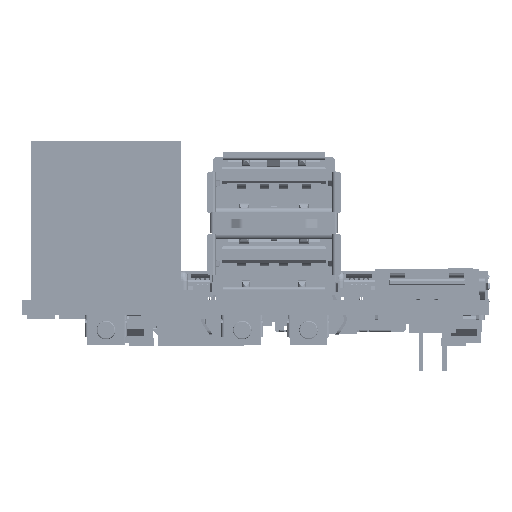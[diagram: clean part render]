
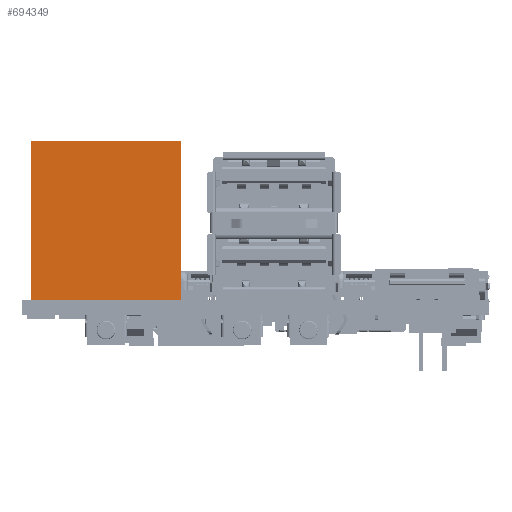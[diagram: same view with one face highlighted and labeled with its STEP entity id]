
A CAD part, front view. The second image highlights one B-rep face of the part: STEP entity #694349.
In plain terms, the highlighted planar face has unit normal (0, -1, 0).
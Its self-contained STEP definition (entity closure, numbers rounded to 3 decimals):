
#694349 = ADVANCED_FACE('',(#694350),#694364,.T.);
#694350 = FACE_BOUND('',#694351,.T.);
#694351 = EDGE_LOOP('',(#694352,#694387,#694415,#694443));
#694352 = ORIENTED_EDGE('',*,*,#694353,.T.);
#694353 = EDGE_CURVE('',#694354,#694356,#694358,.T.);
#694354 = VERTEX_POINT('',#694355);
#694355 = CARTESIAN_POINT('',(8.05,-10.8,0.));
#694356 = VERTEX_POINT('',#694357);
#694357 = CARTESIAN_POINT('',(8.05,-10.8,17.));
#694358 = SURFACE_CURVE('',#694359,(#694363,#694375),.PCURVE_S1.);
#694359 = LINE('',#694360,#694361);
#694360 = CARTESIAN_POINT('',(8.05,-10.8,0.));
#694361 = VECTOR('',#694362,1.);
#694362 = DIRECTION('',(0.,0.,1.));
#694363 = PCURVE('',#694364,#694369);
#694364 = PLANE('',#694365);
#694365 = AXIS2_PLACEMENT_3D('',#694366,#694367,#694368);
#694366 = CARTESIAN_POINT('',(8.05,-10.8,0.));
#694367 = DIRECTION('',(0.,-1.,0.));
#694368 = DIRECTION('',(-1.,0.,0.));
#694369 = DEFINITIONAL_REPRESENTATION('',(#694370),#694374);
#694370 = LINE('',#694371,#694372);
#694371 = CARTESIAN_POINT('',(0.,0.));
#694372 = VECTOR('',#694373,1.);
#694373 = DIRECTION('',(0.,-1.));
#694374 = ( GEOMETRIC_REPRESENTATION_CONTEXT(2) 
PARAMETRIC_REPRESENTATION_CONTEXT() REPRESENTATION_CONTEXT('2D SPACE',''
  ) );
#694375 = PCURVE('',#694376,#694381);
#694376 = PLANE('',#694377);
#694377 = AXIS2_PLACEMENT_3D('',#694378,#694379,#694380);
#694378 = CARTESIAN_POINT('',(8.05,10.8,0.));
#694379 = DIRECTION('',(1.,0.,0.));
#694380 = DIRECTION('',(0.,-1.,0.));
#694381 = DEFINITIONAL_REPRESENTATION('',(#694382),#694386);
#694382 = LINE('',#694383,#694384);
#694383 = CARTESIAN_POINT('',(21.6,0.));
#694384 = VECTOR('',#694385,1.);
#694385 = DIRECTION('',(0.,-1.));
#694386 = ( GEOMETRIC_REPRESENTATION_CONTEXT(2) 
PARAMETRIC_REPRESENTATION_CONTEXT() REPRESENTATION_CONTEXT('2D SPACE',''
  ) );
#694387 = ORIENTED_EDGE('',*,*,#694388,.T.);
#694388 = EDGE_CURVE('',#694356,#694389,#694391,.T.);
#694389 = VERTEX_POINT('',#694390);
#694390 = CARTESIAN_POINT('',(-8.05,-10.8,17.));
#694391 = SURFACE_CURVE('',#694392,(#694396,#694403),.PCURVE_S1.);
#694392 = LINE('',#694393,#694394);
#694393 = CARTESIAN_POINT('',(8.05,-10.8,17.));
#694394 = VECTOR('',#694395,1.);
#694395 = DIRECTION('',(-1.,0.,0.));
#694396 = PCURVE('',#694364,#694397);
#694397 = DEFINITIONAL_REPRESENTATION('',(#694398),#694402);
#694398 = LINE('',#694399,#694400);
#694399 = CARTESIAN_POINT('',(0.,-17.));
#694400 = VECTOR('',#694401,1.);
#694401 = DIRECTION('',(1.,0.));
#694402 = ( GEOMETRIC_REPRESENTATION_CONTEXT(2) 
PARAMETRIC_REPRESENTATION_CONTEXT() REPRESENTATION_CONTEXT('2D SPACE',''
  ) );
#694403 = PCURVE('',#694404,#694409);
#694404 = PLANE('',#694405);
#694405 = AXIS2_PLACEMENT_3D('',#694406,#694407,#694408);
#694406 = CARTESIAN_POINT('',(8.05,-10.8,17.));
#694407 = DIRECTION('',(0.,0.,1.));
#694408 = DIRECTION('',(1.,0.,0.));
#694409 = DEFINITIONAL_REPRESENTATION('',(#694410),#694414);
#694410 = LINE('',#694411,#694412);
#694411 = CARTESIAN_POINT('',(0.,0.));
#694412 = VECTOR('',#694413,1.);
#694413 = DIRECTION('',(-1.,0.));
#694414 = ( GEOMETRIC_REPRESENTATION_CONTEXT(2) 
PARAMETRIC_REPRESENTATION_CONTEXT() REPRESENTATION_CONTEXT('2D SPACE',''
  ) );
#694415 = ORIENTED_EDGE('',*,*,#694416,.F.);
#694416 = EDGE_CURVE('',#694417,#694389,#694419,.T.);
#694417 = VERTEX_POINT('',#694418);
#694418 = CARTESIAN_POINT('',(-8.05,-10.8,0.));
#694419 = SURFACE_CURVE('',#694420,(#694424,#694431),.PCURVE_S1.);
#694420 = LINE('',#694421,#694422);
#694421 = CARTESIAN_POINT('',(-8.05,-10.8,0.));
#694422 = VECTOR('',#694423,1.);
#694423 = DIRECTION('',(0.,0.,1.));
#694424 = PCURVE('',#694364,#694425);
#694425 = DEFINITIONAL_REPRESENTATION('',(#694426),#694430);
#694426 = LINE('',#694427,#694428);
#694427 = CARTESIAN_POINT('',(16.1,0.));
#694428 = VECTOR('',#694429,1.);
#694429 = DIRECTION('',(0.,-1.));
#694430 = ( GEOMETRIC_REPRESENTATION_CONTEXT(2) 
PARAMETRIC_REPRESENTATION_CONTEXT() REPRESENTATION_CONTEXT('2D SPACE',''
  ) );
#694431 = PCURVE('',#694432,#694437);
#694432 = PLANE('',#694433);
#694433 = AXIS2_PLACEMENT_3D('',#694434,#694435,#694436);
#694434 = CARTESIAN_POINT('',(-8.05,-10.8,0.));
#694435 = DIRECTION('',(-1.,0.,0.));
#694436 = DIRECTION('',(0.,1.,0.));
#694437 = DEFINITIONAL_REPRESENTATION('',(#694438),#694442);
#694438 = LINE('',#694439,#694440);
#694439 = CARTESIAN_POINT('',(0.,0.));
#694440 = VECTOR('',#694441,1.);
#694441 = DIRECTION('',(0.,-1.));
#694442 = ( GEOMETRIC_REPRESENTATION_CONTEXT(2) 
PARAMETRIC_REPRESENTATION_CONTEXT() REPRESENTATION_CONTEXT('2D SPACE',''
  ) );
#694443 = ORIENTED_EDGE('',*,*,#694444,.F.);
#694444 = EDGE_CURVE('',#694354,#694417,#694445,.T.);
#694445 = SURFACE_CURVE('',#694446,(#694450,#694457),.PCURVE_S1.);
#694446 = LINE('',#694447,#694448);
#694447 = CARTESIAN_POINT('',(8.05,-10.8,0.));
#694448 = VECTOR('',#694449,1.);
#694449 = DIRECTION('',(-1.,0.,0.));
#694450 = PCURVE('',#694364,#694451);
#694451 = DEFINITIONAL_REPRESENTATION('',(#694452),#694456);
#694452 = LINE('',#694453,#694454);
#694453 = CARTESIAN_POINT('',(0.,0.));
#694454 = VECTOR('',#694455,1.);
#694455 = DIRECTION('',(1.,0.));
#694456 = ( GEOMETRIC_REPRESENTATION_CONTEXT(2) 
PARAMETRIC_REPRESENTATION_CONTEXT() REPRESENTATION_CONTEXT('2D SPACE',''
  ) );
#694457 = PCURVE('',#694458,#694463);
#694458 = PLANE('',#694459);
#694459 = AXIS2_PLACEMENT_3D('',#694460,#694461,#694462);
#694460 = CARTESIAN_POINT('',(8.05,-10.8,0.));
#694461 = DIRECTION('',(0.,0.,1.));
#694462 = DIRECTION('',(1.,0.,0.));
#694463 = DEFINITIONAL_REPRESENTATION('',(#694464),#694468);
#694464 = LINE('',#694465,#694466);
#694465 = CARTESIAN_POINT('',(0.,0.));
#694466 = VECTOR('',#694467,1.);
#694467 = DIRECTION('',(-1.,0.));
#694468 = ( GEOMETRIC_REPRESENTATION_CONTEXT(2) 
PARAMETRIC_REPRESENTATION_CONTEXT() REPRESENTATION_CONTEXT('2D SPACE',''
  ) );
